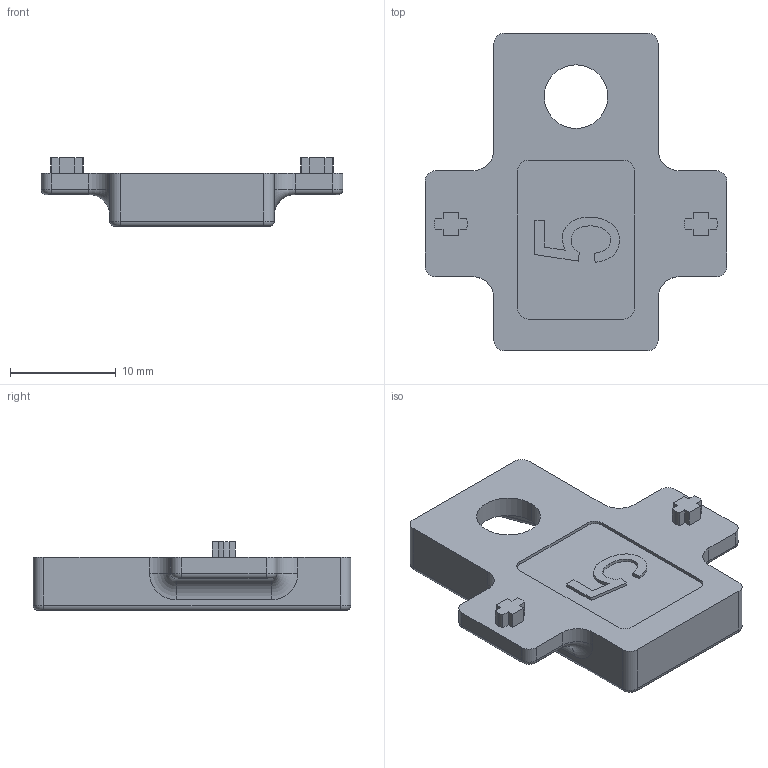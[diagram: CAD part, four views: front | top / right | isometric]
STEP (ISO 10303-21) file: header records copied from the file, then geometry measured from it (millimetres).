
FILE_DESCRIPTION (( 'STEP AP214' ), '1' );
FILE_NAME ('TPL-H-APC-016 09Oct2024.STEP', '2024-10-09T04:51:54', ( '' ), ( '' ), 'SwSTEP 2.0', 'SolidWorks 2023', '' );
FILE_SCHEMA (( 'AUTOMOTIVE_DESIGN' ));
Length unit declared in the file: millimetre
Products named in the file (1): TPL-H-APC-016 09Oct2024
Bounding box: 28.5 x 30 x 6.5 mm (x, y, z)
Volume: 1656.7 mm3; surface area: 1875.6 mm2
Topology: 1 solids, 1 shells, 148 faces, 373 edges, 226 vertices
Faces by surface type: cylinder 56, plane 56, torus 21, bspline 8, sphere 7
Entity records: 4838 total; most frequent: CARTESIAN_POINT 1246, DIRECTION 773, ORIENTED_EDGE 734, EDGE_CURVE 367, AXIS2_PLACEMENT_3D 281, VERTEX_POINT 226, VECTOR 211, LINE 211
